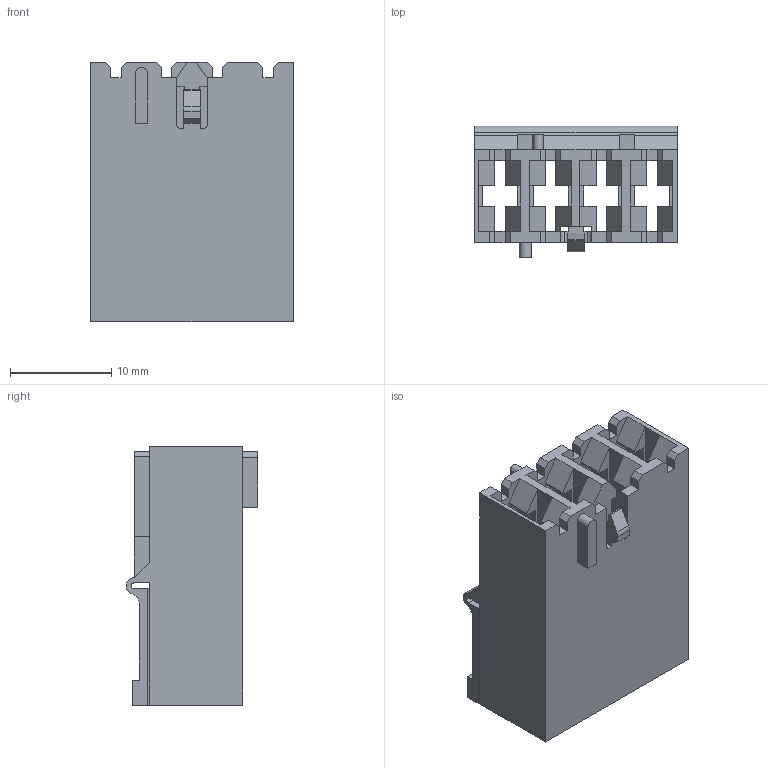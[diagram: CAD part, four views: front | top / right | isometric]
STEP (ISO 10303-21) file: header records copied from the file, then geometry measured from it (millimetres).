
FILE_DESCRIPTION(/* description */ ('STEP AP203'),/* implementation_level */ '2;1');
FILE_NAME(/* name */ 'P_MZ_Z_0997',/* time_stamp */ '2023-04-13T10:30:38+02:00',/* author */ ('License CC BY-ND 4.0'),/* organization */ ('CADENAS'),/* preprocessor_version */ 'ST-DEVELOPER v19.3',/* originating_system */ 'PARTsolutions',/* authorisation */ ' ');
FILE_SCHEMA (('CONFIG_CONTROL_DESIGN'));
Length unit declared in the file: millimetre
Products named in the file (1): P_MZ_Z_0997
Bounding box: 20 x 13 x 25.55 mm (x, y, z)
Volume: 2483 mm3; surface area: 4577.4 mm2
Topology: 1 solids, 1 shells, 237 faces, 746 edges, 484 vertices
Faces by surface type: plane 223, cylinder 14
Entity records: 8167 total; most frequent: ORIENTED_EDGE 1492, CARTESIAN_POINT 1468, DIRECTION 1263, EDGE_CURVE 746, LINE 705, VECTOR 705, VERTEX_POINT 484, AXIS2_PLACEMENT_3D 279
